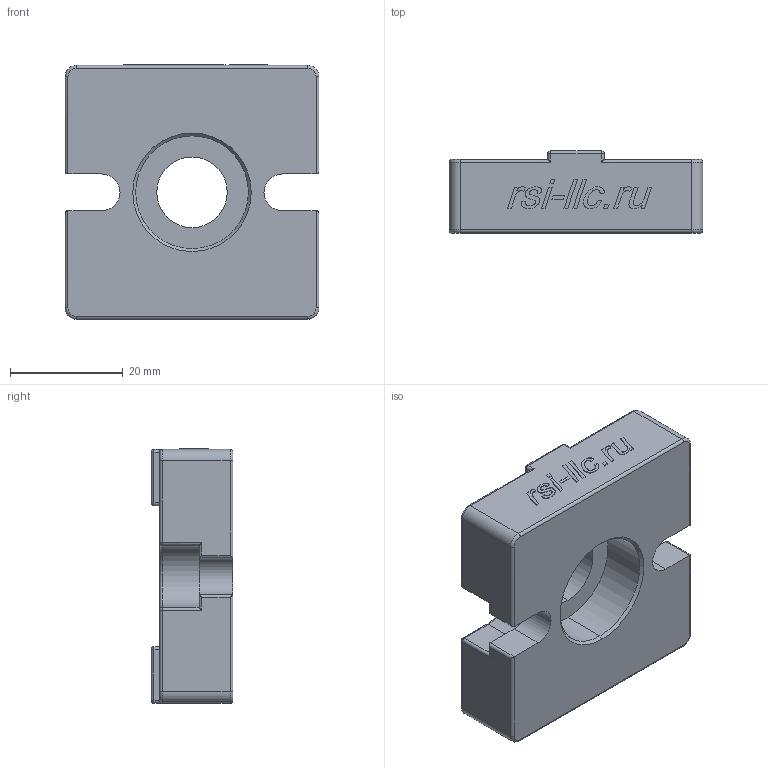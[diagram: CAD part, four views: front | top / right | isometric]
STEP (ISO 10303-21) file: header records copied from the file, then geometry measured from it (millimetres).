
FILE_DESCRIPTION (( 'STEP AP214' ), '1' );
FILE_NAME ('312.0200A.01.STEP', '2020-12-25T13:09:07', ( '' ), ( '' ), 'SwSTEP 2.0', 'SolidWorks 2020', '' );
FILE_SCHEMA (( 'AUTOMOTIVE_DESIGN' ));
Length unit declared in the file: millimetre
Products named in the file (1): 312.0200A.01
Bounding box: 45 x 14.5 x 45.1 mm (x, y, z)
Volume: 20948.8 mm3; surface area: 7102.5 mm2
Topology: 12 solids, 12 shells, 216 faces, 509 edges, 306 vertices
Faces by surface type: plane 100, cylinder 58, bspline 32, sphere 12, torus 10, cone 4
Entity records: 10244 total; most frequent: CARTESIAN_POINT 3052, ORIENTED_EDGE 994, DIRECTION 885, EDGE_CURVE 497, VECTOR 319, LINE 319, VERTEX_POINT 306, AXIS2_PLACEMENT_3D 283
